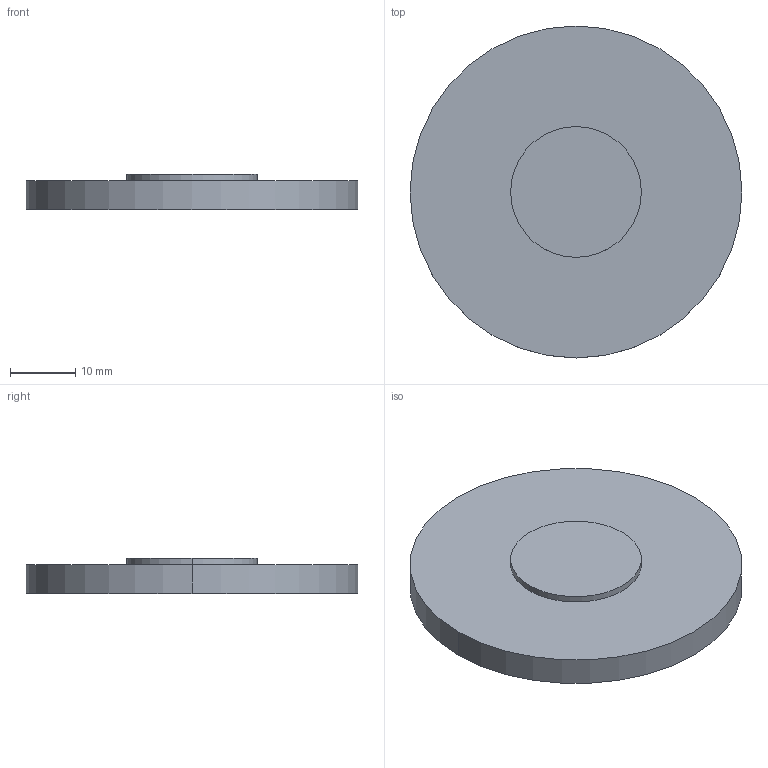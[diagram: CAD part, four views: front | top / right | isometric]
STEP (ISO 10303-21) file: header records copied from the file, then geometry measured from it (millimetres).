
FILE_DESCRIPTION(('STEP AP214'),'1');
FILE_NAME('LLG-51-1M.STEP','2020-03-09T17:41:39',(' '),(' '),'Spatial InterOp 3D',' ',' ');
FILE_SCHEMA(('AUTOMOTIVE_DESIGN { 1 0 10303 214 1 1 1 1 }'));
Length unit declared in the file: millimetre
Products named in the file (1): 1
Bounding box: 50.8 x 50.8 x 5.5 mm (x, y, z)
Volume: 9326 mm3; surface area: 5445.9 mm2
Topology: 2 solids, 2 shells, 9 faces, 16 edges, 9 vertices
Faces by surface type: cylinder 4, plane 3, sphere 2
Entity records: 229 total; most frequent: DIRECTION 46, CARTESIAN_POINT 34, ORIENTED_EDGE 28, AXIS2_PLACEMENT_3D 21, EDGE_CURVE 14, CIRCLE 10, ADVANCED_FACE 9, FACE_OUTER_BOUND 9
